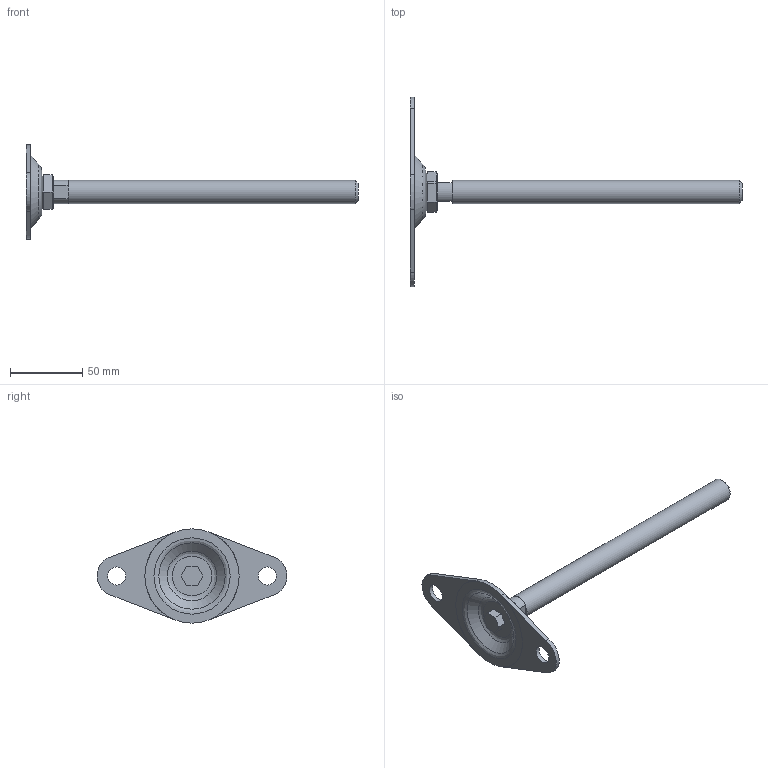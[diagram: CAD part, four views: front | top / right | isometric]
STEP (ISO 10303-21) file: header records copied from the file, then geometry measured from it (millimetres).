
FILE_DESCRIPTION(('STEP AP203'),'2;1');
FILE_NAME('15856.stp','2015-02-12T17:03:46',(''),(''),'2008.1.107','THINKDESIGN','');
FILE_SCHEMA(('CONFIG_CONTROL_DESIGN'));
Length unit declared in the file: millimetre
Bounding box: 229 x 130.91 x 65 mm (x, y, z)
Volume: 64018.4 mm3; surface area: 27092.1 mm2
Topology: 7 solids, 7 shells, 67 faces, 158 edges, 109 vertices
Faces by surface type: plane 35, bspline 20, cylinder 12
Full cylindrical faces by diameter (mm): 8.5 x1, 12.5 x2, 16 x1, 65 x1
Entity records: 2522 total; most frequent: CARTESIAN_POINT 795, DIRECTION 311, ORIENTED_EDGE 308, EDGE_CURVE 154, AXIS2_PLACEMENT_3D 106, VERTEX_POINT 103, VECTOR 99, LINE 99
